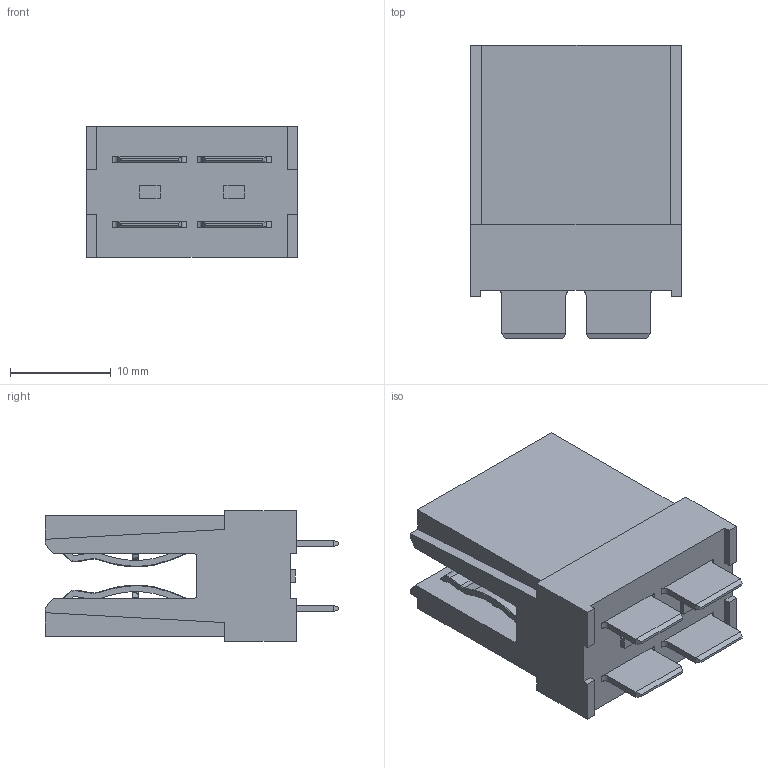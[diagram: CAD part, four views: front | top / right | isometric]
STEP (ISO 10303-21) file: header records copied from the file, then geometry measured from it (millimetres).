
FILE_DESCRIPTION (( 'STEP AP214' ), '1' );
FILE_NAME ('9192-A2P02TSAA01.STEP', '2025-04-01T01:26:07', ( '' ), ( '' ), 'SwSTEP 2.0', 'SolidWorks 2011', '' );
FILE_SCHEMA (( 'AUTOMOTIVE_DESIGN' ));
Length unit declared in the file: millimetre
Products named in the file (1): 9192-A2P02TSAA01
Bounding box: 20.95 x 29.1 x 13 mm (x, y, z)
Volume: 4958.3 mm3; surface area: 3536 mm2
Topology: 1 solids, 1 shells, 654 faces, 1812 edges, 1162 vertices
Faces by surface type: plane 352, cylinder 204, cone 98
Entity records: 28128 total; most frequent: CARTESIAN_POINT 3809, ORIENTED_EDGE 3624, DIRECTION 3574, EDGE_CURVE 1812, VECTOR 1256, LINE 1256, VERTEX_POINT 1162, AXIS2_PLACEMENT_3D 1159
